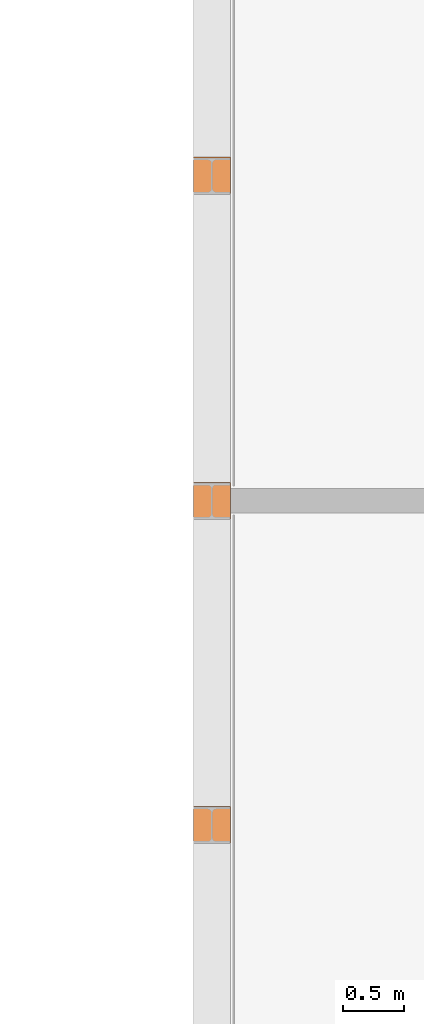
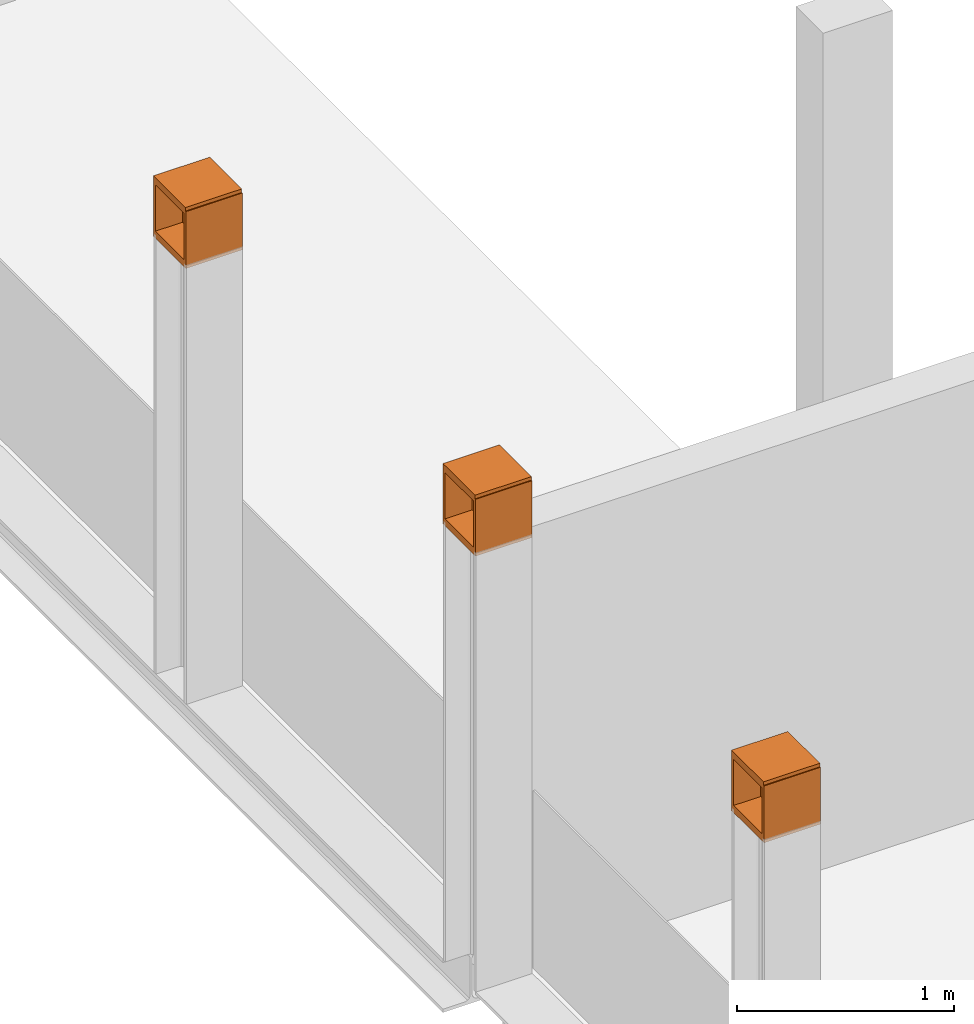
# One storey, part 19 of 22: 3 proxies.
"""IFC2X3 building model written with IfcOpenShell, lengths in millimetres."""

from ifc_helpers import new_model, entity, si_unit, converted_unit, derived_unit, money_unit, direction, frame, origin_with_axes, place, context, subcontext, project, spatial, faceted_brep, source, transform, mapped, material, type_object, type_shapes, element, save


model = new_model("IFC2X3")

# Units and contexts
model_context = context("Model", 3, precision=0.01, world=origin_with_axes(), true_north=direction((0.0, 1.0)))
body_context = subcontext(model_context, "Body", "Model", "MODEL_VIEW")
ifc_project = project(units=[si_unit("LENGTHUNIT", "METRE", prefix="MILLI"), si_unit("AREAUNIT", "SQUARE_METRE"), si_unit("VOLUMEUNIT", "CUBIC_METRE"), converted_unit("PLANEANGLEUNIT", "DEGREE", entity("IfcPlaneAngleMeasure", 0.0174532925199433), si_unit("PLANEANGLEUNIT", "RADIAN"), dimensions=[0, 0, 0, 0, 0, 0, 0]), money_unit("EUR"), converted_unit("TIMEUNIT", "Year", entity("IfcTimeMeasure", 31557600.0), si_unit("TIMEUNIT", "SECOND"), dimensions=[0, 0, 1, 0, 0, 0, 0]), si_unit("MASSUNIT", "GRAM", prefix="KILO"), si_unit("THERMODYNAMICTEMPERATUREUNIT", "DEGREE_CELSIUS"), si_unit("LUMINOUSINTENSITYUNIT", "LUMEN"), si_unit("ENERGYUNIT", "JOULE", prefix="MEGA"), derived_unit("THERMALCONDUCTANCEUNIT", [(si_unit("POWERUNIT", "WATT"), 1), (si_unit("LENGTHUNIT", "METRE"), -1), (si_unit("THERMODYNAMICTEMPERATUREUNIT", "KELVIN"), -1)]), derived_unit("SPECIFICHEATCAPACITYUNIT", [(si_unit("ENERGYUNIT", "JOULE"), 1), (si_unit("MASSUNIT", "GRAM", prefix="KILO"), -1), (si_unit("THERMODYNAMICTEMPERATUREUNIT", "KELVIN"), -1)]), derived_unit("MASSDENSITYUNIT", [(si_unit("MASSUNIT", "GRAM", prefix="KILO"), 1), (si_unit("VOLUMEUNIT", "CUBIC_METRE"), -1)])], contexts=[model_context])

# Site, building, storey
site_placement = place(None, origin_with_axes())
site = spatial("IfcSite", under=ifc_project, at=site_placement, Name="Site", CompositionType="ELEMENT")
building_placement = place(site_placement, origin_with_axes())
building = spatial("IfcBuilding", under=site, at=building_placement, Name="Naam gebouw", CompositionType="ELEMENT")
storey_placement = place(building_placement, frame((0.0, 0.0, 11150.0), z_axis=(0.0, 0.0, 1.0), x_axis=(1.0, 0.0, 0.0)))
storey = spatial("IfcBuildingStorey", under=building, at=storey_placement, Name="3e verdieping/dak N", CompositionType="ELEMENT", Elevation=11150.0)

# Proxies
ifc_material = material(Name="staal geanodiseerd RAL 7024")
building_element_proxy_type_1 = type_object("IfcBuildingElementProxyType", Name="Structural Connections 263:Structural Connections 1", PredefinedType="NOTDEFINED")
shared_shape = source(origin_with_axes(), body_context, "Body", "Brep", [
    faceted_brep([(13175.00000128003, 11209.00001265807, 9780.0), (13475.00000128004, 11209.00001265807, 9780.0), (13475.00000128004, 11209.00001265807, 9799.999999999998), (13175.00000128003, 11209.00001265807, 9799.999999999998), (13175.00000128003, 11509.00001265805, 9780.0), (13475.00000128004, 11509.00001265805, 9780.0), (13475.00000128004, 11509.00001265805, 9799.999999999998), (13175.00000128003, 11509.00001265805, 9799.999999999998)], [[[0, 1, 2, 3]], [[0, 4, 5, 1]], [[1, 5, 6, 2]], [[3, 2, 6, 7]], [[4, 0, 3, 7]], [[5, 4, 7, 6]]]),
    faceted_brep([(13175.00000128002, 11209.00001265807, 10060.0), (13475.00000128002, 11209.00001265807, 10060.0), (13475.00000128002, 11209.00001265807, 10080.0), (13175.00000128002, 11209.00001265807, 10080.0), (13175.00000128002, 11509.00001265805, 10060.0), (13475.00000128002, 11509.00001265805, 10060.0), (13475.00000128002, 11509.00001265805, 10080.0), (13175.00000128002, 11509.00001265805, 10080.0)], [[[0, 1, 2, 3]], [[0, 4, 5, 1]], [[1, 5, 6, 2]], [[3, 2, 6, 7]], [[4, 0, 3, 7]], [[5, 4, 7, 6]]]),
    faceted_brep([(13180.00000128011, 11209.00001265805, 10080.0), (13475.00000128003, 11209.00001265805, 10080.0), (13475.00000128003, 11209.00001265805, 10100.0), (13180.00000128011, 11209.00001265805, 10100.0), (13180.00000128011, 11509.00001265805, 10080.0), (13475.00000128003, 11509.00001265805, 10080.0), (13475.00000128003, 11509.00001265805, 10100.0), (13180.00000128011, 11509.00001265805, 10100.0)], [[[0, 1, 2, 3]], [[0, 4, 5, 1]], [[1, 5, 6, 2]], [[3, 2, 6, 7]], [[4, 0, 3, 7]], [[5, 4, 7, 6]]]),
    faceted_brep([(13175.00000128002, 11209.00001265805, 9760.0), (13475.00000128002, 11209.00001265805, 9760.0), (13475.00000128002, 11209.00001265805, 9780.0), (13175.00000128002, 11209.00001265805, 9780.0), (13175.00000128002, 11509.00001265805, 9760.0), (13475.00000128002, 11509.00001265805, 9760.0), (13475.00000128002, 11509.00001265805, 9780.0), (13175.00000128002, 11509.00001265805, 9780.0)], [[[0, 1, 2, 3]], [[0, 4, 5, 1]], [[1, 5, 6, 2]], [[3, 2, 6, 7]], [[4, 0, 3, 7]], [[5, 4, 7, 6]]]),
    faceted_brep([(13194.00000128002, 11209.00001265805, 10080.0), (13175.00000128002, 11209.00001265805, 10080.0), (13175.00000128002, 11209.00001265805, 9780.0), (13194.00000128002, 11209.00001265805, 9780.0), (13194.00000128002, 11353.50001265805, 10080.0), (13456.00000128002, 11353.50001265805, 10080.0), (13456.00000128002, 11209.00001265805, 10080.0), (13475.00000128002, 11209.00001265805, 10080.0), (13475.00000128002, 11509.00001265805, 10080.0), (13456.00000128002, 11509.00001265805, 10080.0), (13456.00000128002, 11364.50001265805, 10080.0), (13194.00000128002, 11364.50001265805, 10080.0), (13194.00000128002, 11509.00001265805, 10080.0), (13175.00000128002, 11509.00001265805, 10080.0), (13175.00000128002, 11509.00001265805, 9780.0), (13194.00000128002, 11509.00001265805, 9780.0), (13194.00000128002, 11364.50001265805, 9780.0), (13456.00000128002, 11364.50001265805, 9780.0), (13456.00000128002, 11509.00001265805, 9780.0), (13475.00000128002, 11509.00001265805, 9780.0), (13475.00000128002, 11209.00001265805, 9780.0), (13456.00000128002, 11209.00001265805, 9780.0), (13456.00000128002, 11353.50001265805, 9780.0), (13194.00000128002, 11353.50001265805, 9780.0)], [[[0, 1, 2, 3]], [[0, 4, 5, 6, 7, 8, 9, 10, 11, 12, 13, 1]], [[1, 13, 14, 2]], [[3, 2, 14, 15, 16, 17, 18, 19, 20, 21, 22, 23]], [[4, 0, 3, 23]], [[5, 4, 23, 22]], [[6, 5, 22, 21]], [[7, 6, 21, 20]], [[8, 7, 20, 19]], [[9, 8, 19, 18]], [[10, 9, 18, 17]], [[11, 10, 17, 16]], [[12, 11, 16, 15]], [[13, 12, 15, 14]]]),
])
type_shapes(building_element_proxy_type_1, [shared_shape])
proxy_1_placement = place(storey_placement, frame((28651.00001269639, 19965.91242501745, -7000.0), z_axis=(0.0, 0.0, 1.0), x_axis=(0.0, 1.0, 0.0)))
element("IfcBuildingElementProxy", 1, at=proxy_1_placement, inside=storey, type_object=building_element_proxy_type_1, material=ifc_material, Name="Structural Connections 263:Structural Connections 1", context=body_context, shape_type="MappedRepresentation", body=[
    mapped(shared_shape, transform((0.0, 0.0, 0.0))),
])
building_element_proxy_type_2 = type_object("IfcBuildingElementProxyType", Name="Structural Connections 258:Structural Connections 1", PredefinedType="NOTDEFINED")
type_shapes(building_element_proxy_type_2, [shared_shape])
proxy_2_placement = place(storey_placement, frame((28651.00001266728, 25295.91242503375, -7000.0), z_axis=(0.0, 0.0, 1.0), x_axis=(0.0, 1.0, 0.0)))
element("IfcBuildingElementProxy", 2, at=proxy_2_placement, inside=storey, type_object=building_element_proxy_type_2, material=ifc_material, Name="Structural Connections 258:Structural Connections 1", context=body_context, shape_type="MappedRepresentation", body=[
    mapped(shared_shape, transform((0.0, 0.0, 0.0))),
])
building_element_proxy_type_3 = type_object("IfcBuildingElementProxyType", Name="Structural Connections 252:Structural Connections 1", PredefinedType="NOTDEFINED")
type_shapes(building_element_proxy_type_3, [shared_shape])
proxy_3_placement = place(storey_placement, frame((28651.00001269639, 22625.91242505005, -7000.0), z_axis=(0.0, 0.0, 1.0), x_axis=(0.0, 1.0, 0.0)))
element("IfcBuildingElementProxy", 3, at=proxy_3_placement, inside=storey, type_object=building_element_proxy_type_3, material=ifc_material, Name="Structural Connections 252:Structural Connections 1", context=body_context, shape_type="MappedRepresentation", body=[
    mapped(shared_shape, transform((0.0, 0.0, 0.0))),
])

save(model, "model.ifc")
